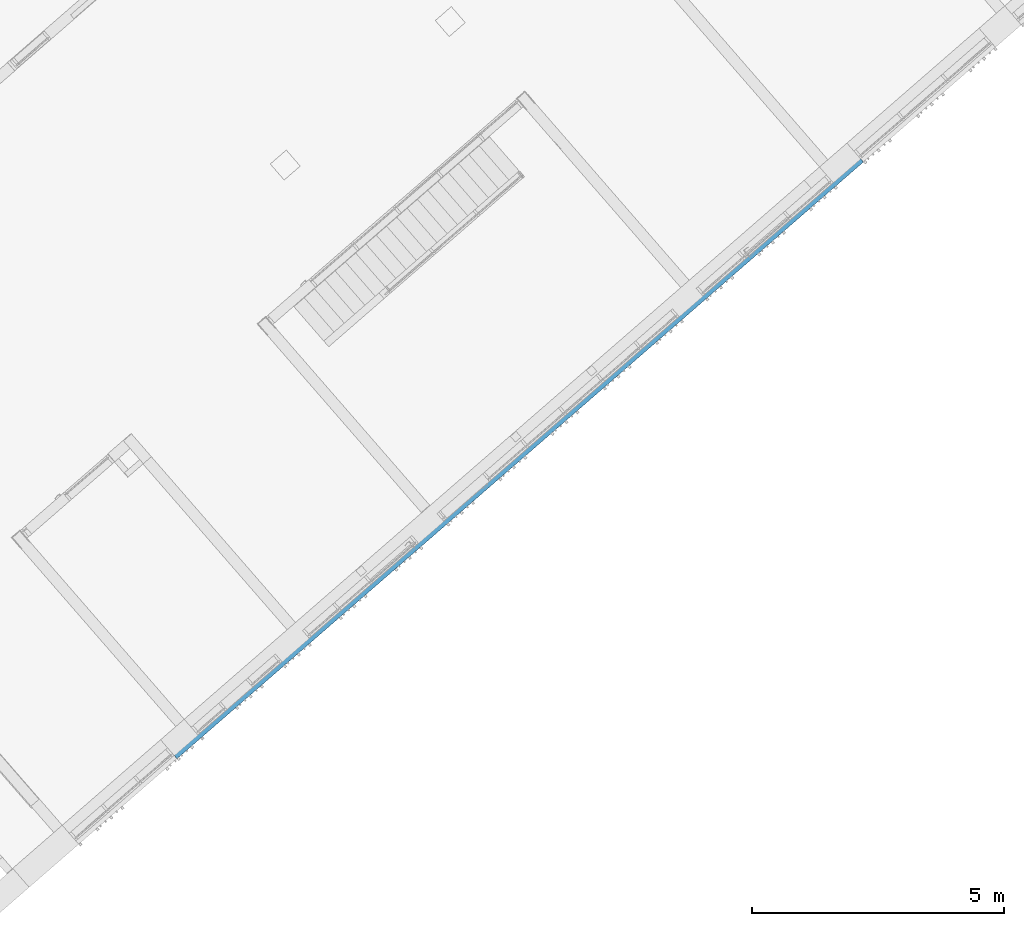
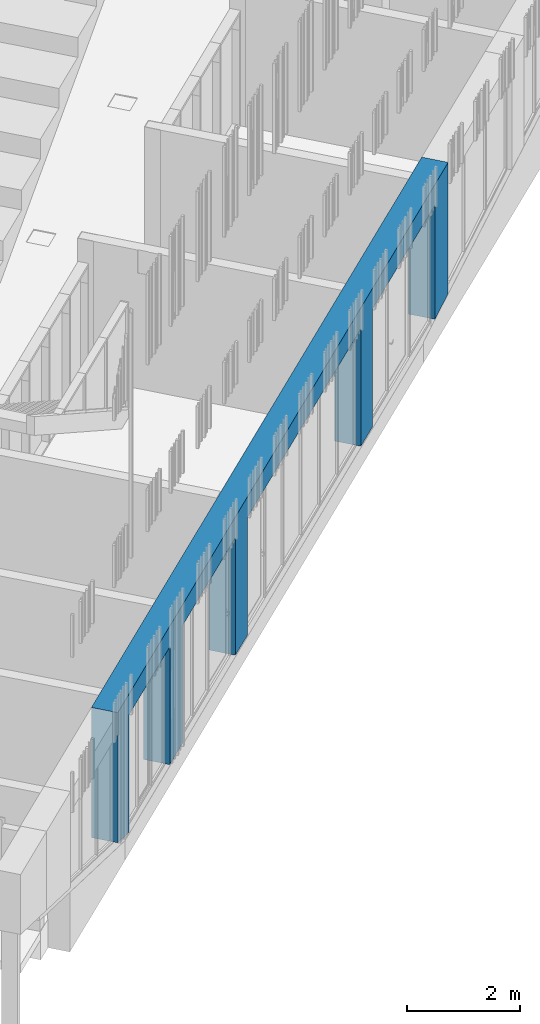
# One storey, part 67 of 124: 1 wall.
"""IFC2X3 building model written with IfcOpenShell, lengths in millimetres."""

import ifcopenshell
import ifcopenshell.guid

model = None  # the IFC model being written
_history = None  # IfcOwnerHistory: only IFC2X3 demands one
_inside = {}  # id of a spatial element -> (the spatial element, [elements in it])
_under = {}  # id of a project, library or spatial element -> (it, [spatial elements below it])
_declared = {}  # id of a project -> (the project, [libraries it declares])
_typed = {}  # id of a type object -> (the type object, [elements of that type])
_made_of = {}  # id of a material, layer set ... -> (it, [elements and type objects made of it])


def new_model(schema):
    """Start an empty IFC model of exactly this schema.

    Asked for "IFC4X3", IfcOpenShell would pick the latest addendum, in which some entities
    have other attributes; the version numbers below select the first issue.
    IFC2X3 requires an IfcOwnerHistory on every rooted entity: one is made here for all.
    """
    global model, _history
    if schema == "IFC4X3":
        model = ifcopenshell.file(schema_version=(4, 3, 0, 0))
    else:
        model = ifcopenshell.file(schema=schema)
    _inside.clear()
    _under.clear()
    _declared.clear()
    _typed.clear()
    _made_of.clear()
    _history = None
    if model.schema == "IFC2X3":
        org = make("IfcOrganization", Name="unknown")
        user = make(
            "IfcPersonAndOrganization",
            ThePerson=make("IfcPerson", FamilyName="unknown"),
            TheOrganization=org,
        )
        app = make(
            "IfcApplication",
            ApplicationDeveloper=org,
            Version="unknown",
            ApplicationFullName="unknown",
            ApplicationIdentifier="unknown",
        )
        _history = make(
            "IfcOwnerHistory",
            OwningUser=user,
            OwningApplication=app,
            ChangeAction="ADDED",
            CreationDate=0,
        )
    return model


def make(cls, **values):
    """One entity of the class cls with the attributes given. An attribute that is None is left unset."""
    return model.create_entity(
        cls, **{name: value for name, value in values.items() if value is not None}
    )


def entity(cls, *values):
    """Any entity or typed value of the class cls, its attributes in the order of the schema. None: left unset."""
    e = model.create_entity(cls)
    for i, value in enumerate(values):
        if value is not None:
            e[i] = value
    return e


def rooted(cls, **values):
    """An entity with a GlobalId (a new one), such as an element, a storey or a relation."""
    return make(cls, GlobalId=ifcopenshell.guid.new(), OwnerHistory=_history, **values)


def si_unit(unit_type, name, prefix=None):
    """IfcSIUnit, for example si_unit("LENGTHUNIT", "METRE", prefix="MILLI")."""
    return make("IfcSIUnit", UnitType=unit_type, Prefix=prefix, Name=name)


def converted_unit(unit_type, name, factor, base, dimensions=None, offset=None):
    """IfcConversionBasedUnit, such as the inch: factor (a typed value) times the base unit."""
    return make(
        "IfcConversionBasedUnit"
        if offset is None
        else "IfcConversionBasedUnitWithOffset",
        ConversionOffset=offset,
        Dimensions=None
        if dimensions is None
        else entity("IfcDimensionalExponents", *dimensions),
        UnitType=unit_type,
        Name=name,
        ConversionFactor=make(
            "IfcMeasureWithUnit", ValueComponent=factor, UnitComponent=base
        ),
    )


def derived_unit(unit_type, elements):
    """IfcDerivedUnit: a product of units, each with its exponent."""
    return make(
        "IfcDerivedUnit",
        Elements=[
            make("IfcDerivedUnitElement", Unit=unit, Exponent=power)
            for unit, power in elements
        ],
        UnitType=unit_type,
    )


def money_unit(currency):
    """IfcMonetaryUnit."""
    return make("IfcMonetaryUnit", Currency=currency)


def assignment(units):
    """IfcUnitAssignment: the units of a project."""
    return None if units is None else make("IfcUnitAssignment", Units=units)


def point(xyz):
    """IfcCartesianPoint."""
    return None if xyz is None else make("IfcCartesianPoint", Coordinates=xyz)


def direction(xyz):
    """IfcDirection."""
    return None if xyz is None else make("IfcDirection", DirectionRatios=xyz)


def frame(location, z_axis=None, x_axis=None):
    """IfcAxis2Placement3D, a coordinate frame: its origin and axes. An axis left out is left unset."""
    return make(
        "IfcAxis2Placement3D",
        Location=point(location),
        Axis=direction(z_axis),
        RefDirection=direction(x_axis),
    )


def origin_with_axes():
    """The frame at (0, 0, 0) with the z axis (0, 0, 1) and the x axis (1, 0, 0) written out."""
    return frame((0.0, 0.0, 0.0), z_axis=(0.0, 0.0, 1.0), x_axis=(1.0, 0.0, 0.0))


def place(relative_to, where):
    """IfcLocalPlacement: puts the frame where relative to a parent placement (None: the world)."""
    return make(
        "IfcLocalPlacement", PlacementRelTo=relative_to, RelativePlacement=where
    )


def context(
    kind, dimensions, precision=None, world=None, true_north=None, identifier=None
):
    """IfcGeometricRepresentationContext, for example the 3D "Model" context."""
    return make(
        "IfcGeometricRepresentationContext",
        ContextIdentifier=identifier,
        ContextType=kind,
        CoordinateSpaceDimension=dimensions,
        Precision=precision,
        WorldCoordinateSystem=world,
        TrueNorth=true_north,
    )


def subcontext(parent, identifier, kind, view, scale=None):
    """IfcGeometricRepresentationSubContext, for example "Body" below "Model"."""
    return make(
        "IfcGeometricRepresentationSubContext",
        ContextIdentifier=identifier,
        ContextType=kind,
        ParentContext=parent,
        TargetScale=scale,
        TargetView=view,
    )


def project(units=None, contexts=None):
    """IfcProject with its units and contexts."""
    return rooted(
        "IfcProject",
        Name="project",
        RepresentationContexts=contexts,
        UnitsInContext=assignment(units),
    )


def spatial(cls, under=None, at=None, **own):
    """A site, building, storey or space (cls), placed at a placement, below another one or the project."""
    s = rooted(cls, ObjectPlacement=at, **own)
    if under is not None:
        _under.setdefault(under.id(), (under, []))[1].append(s)
    return s


def faces_of(points, faces, orient=None, outer=None):
    """IfcFace entities. A face is a list of loops; a loop is a list of indices into points, from 0.

    orient and outer hold one flag for each loop. By default every Orientation is true, the
    first loop of a face is its IfcFaceOuterBound and the others are IfcFaceBound.
    """
    made = []
    for i, loops in enumerate(faces):
        bounds = []
        for j, loop in enumerate(loops):
            is_outer = j == 0 if outer is None else outer[i][j]
            bounds.append(
                make(
                    "IfcFaceOuterBound" if is_outer else "IfcFaceBound",
                    Bound=make("IfcPolyLoop", Polygon=[points[k] for k in loop]),
                    Orientation=True if orient is None else orient[i][j],
                )
            )
        made.append(make("IfcFace", Bounds=bounds))
    return made


def faceted_brep(points, faces, orient=None, outer=None, voids=None):
    """IfcFacetedBrep: a solid bounded by flat faces; with voids (closed shells), ...WithVoids."""
    shared = [point(p) for p in points]
    hull = make("IfcClosedShell", CfsFaces=faces_of(shared, faces, orient, outer))
    if voids is None:
        return make("IfcFacetedBrep", Outer=hull)
    return make(
        "IfcFacetedBrepWithVoids",
        Outer=hull,
        Voids=[
            make(cls, CfsFaces=faces_of(shared, fs, o, b)) for cls, fs, o, b in voids
        ],
    )


def shape(context_of_items, identifier, shape_type, items):
    """IfcShapeRepresentation: the items that make up one representation, for example the "Body"."""
    return make(
        "IfcShapeRepresentation",
        ContextOfItems=context_of_items,
        RepresentationIdentifier=identifier,
        RepresentationType=shape_type,
        Items=items,
    )


def material(Name=None, Category=None):
    """IfcMaterial."""
    return make("IfcMaterial", Name=Name, Category=Category)


def material_list(materials):
    """IfcMaterialList."""
    return make("IfcMaterialList", Materials=materials)


def made_of(thing, what):
    """Note that an element or type object is made of a material, layer set ...; save() writes the relation."""
    if what is not None:
        _made_of.setdefault(what.id(), (what, []))[1].append(thing)
    return thing


def type_object(cls, material=None, **own):
    """A type object (cls), such as IfcWallType, which elements share."""
    return made_of(rooted(cls, **own), material)


def element(
    cls,
    number,
    at=None,
    inside=None,
    cuts=None,
    type_object=None,
    material=None,
    context=None,
    identifier="Body",
    shape_type=None,
    held_by="IfcProductDefinitionShape",
    body=None,
    shapes=None,
    **own,
):
    """One element of the class cls, such as IfcWall. Its Tag is "e" and its number.

    at: its placement. inside: the storey or other place that contains it. cuts: it is an
    opening in that element (IfcRelVoidsElement). A single representation is given by context,
    identifier, shape_type and body (its items); several are given by shapes. held_by: the class
    of the entity that holds the representations. save() writes the other relations.
    """
    e = rooted(cls, Tag="e%d" % number, ObjectPlacement=at, **own)
    if body is not None:
        shapes = [shape(context, identifier, shape_type, body)]
    if shapes is not None:
        e.Representation = make(held_by, Representations=shapes)
    if inside is not None:
        _inside.setdefault(inside.id(), (inside, []))[1].append(e)
    if cuts is not None:
        rooted(
            "IfcRelVoidsElement", RelatingBuildingElement=cuts, RelatedOpeningElement=e
        )
    if type_object is not None:
        _typed.setdefault(type_object.id(), (type_object, []))[1].append(e)
    return made_of(e, material)


def aggregate(whole, parts):
    """IfcRelAggregates: a whole, such as a stair, and the parts it consists of."""
    return rooted("IfcRelAggregates", RelatingObject=whole, RelatedObjects=parts)


def save(model, path):
    """Write the relations noted so far, then the file.

    IfcRelAggregates (storeys below a building ...), IfcRelContainedInSpatialStructure (elements
    in a storey), IfcRelDefinesByType, IfcRelAssociatesMaterial and IfcRelDeclares: one each for
    every whole, place, type object, material and project.
    """
    for whole, parts in _under.values():
        aggregate(whole, parts)
    for where, things in _inside.values():
        rooted(
            "IfcRelContainedInSpatialStructure",
            RelatedElements=things,
            RelatingStructure=where,
        )
    for kind, things in _typed.values():
        rooted("IfcRelDefinesByType", RelatedObjects=things, RelatingType=kind)
    for what, things in _made_of.values():
        rooted("IfcRelAssociatesMaterial", RelatedObjects=things, RelatingMaterial=what)
    for by, libraries in _declared.values():
        rooted("IfcRelDeclares", RelatingContext=by, RelatedDefinitions=libraries)
    model.write(path)


model = new_model("IFC2X3")

# Units and contexts
model_context = context("Model", 3, precision=1e-05, world=origin_with_axes(), true_north=direction((0.0, 1.0)))
body_context = subcontext(model_context, "Body", "Model", "MODEL_VIEW")
ifc_project = project(units=[si_unit("LENGTHUNIT", "METRE", prefix="MILLI"), si_unit("AREAUNIT", "SQUARE_METRE"), si_unit("VOLUMEUNIT", "CUBIC_METRE"), converted_unit("PLANEANGLEUNIT", "DEGREE", entity("IfcPlaneAngleMeasure", 0.0174532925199), si_unit("PLANEANGLEUNIT", "RADIAN"), dimensions=[0, 0, 0, 0, 0, 0, 0]), si_unit("SOLIDANGLEUNIT", "STERADIAN"), money_unit("EUR"), converted_unit("TIMEUNIT", "Year", entity("IfcTimeMeasure", 31556926.0), si_unit("TIMEUNIT", "SECOND"), dimensions=[0, 0, 1, 0, 0, 0, 0]), si_unit("MASSUNIT", "GRAM", prefix="KILO"), si_unit("THERMODYNAMICTEMPERATUREUNIT", "DEGREE_CELSIUS"), si_unit("LUMINOUSINTENSITYUNIT", "LUMEN"), si_unit("ENERGYUNIT", "JOULE", prefix="MEGA"), derived_unit("THERMALCONDUCTANCEUNIT", [(si_unit("POWERUNIT", "WATT"), 1), (si_unit("LENGTHUNIT", "METRE"), -1), (si_unit("THERMODYNAMICTEMPERATUREUNIT", "KELVIN"), -1)]), derived_unit("SPECIFICHEATCAPACITYUNIT", [(si_unit("ENERGYUNIT", "JOULE"), 1), (si_unit("MASSUNIT", "GRAM", prefix="KILO"), -1), (si_unit("THERMODYNAMICTEMPERATUREUNIT", "KELVIN"), -1)]), derived_unit("MASSDENSITYUNIT", [(si_unit("MASSUNIT", "GRAM", prefix="KILO"), 1), (si_unit("VOLUMEUNIT", "CUBIC_METRE"), -1)])], contexts=[model_context])

# Site, building, storey
site_placement = place(None, origin_with_axes())
site = spatial("IfcSite", under=ifc_project, at=site_placement, Name="Site", CompositionType="ELEMENT")
building_placement = place(site_placement, origin_with_axes())
building = spatial("IfcBuilding", under=site, at=building_placement, Name="Building", CompositionType="ELEMENT")
storey_placement = place(building_placement, frame((0.0, 0.0, -1615.0), z_axis=(0.0, 0.0, 1.0), x_axis=(1.0, 0.0, 0.0)))
storey = spatial("IfcBuildingStorey", under=building, at=storey_placement, Name="0  korrus", CompositionType="ELEMENT", Elevation=-1615.0)

# Wall
ifc_material_1 = material(Name="Puit - Konstruktsioon")
ifc_material_2 = material(Name="Õhkvahe")
ifc_material_3 = material(Name="Soojustus - Plastik Kõva")
ifc_material_4 = material(Name="Raudbetoon - Toode")
ifc_material_5 = material(Name="Krohv - Lubjakivi")
ifc_material_list = material_list([ifc_material_1, ifc_material_1, ifc_material_2, ifc_material_3, ifc_material_3, ifc_material_4, ifc_material_5])
wall_type = type_object("IfcWallType", Name="VS-01", PredefinedType="NOTDEFINED")
wall_placement = place(storey_placement, frame((166076.147856, 89690.0662367, 0.0), z_axis=(0.0, 0.0, 1.0), x_axis=(-0.754709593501, -0.656059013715, 0.0)))
element("IfcWall", 1, at=wall_placement, inside=storey, type_object=wall_type, material=ifc_material_list, Name="VS-01", context=body_context, shape_type="Brep", body=[
    faceted_brep([(720.0, 497.0, 75.3675197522), (0.0, 497.0, 155.98290438), (0.0, 497.0, 3000.0), (18010.0009218, 497.0, 3000.0), (18010.0009218, 497.0, 179.612002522), (17390.0000011, 497.0, 0.0), (17390.0000011, 497.0, 2550.0), (15180.0000011, 497.0, 2550.0), (15180.0000011, 497.0, 0.0), (14469.9998322, 497.0, 0.0), (14469.9998322, 497.0, 2550.0), (11599.9998322, 497.0, 2550.0), (11599.9998322, 497.0, 0.0), (10940.0000231, 497.0, 0.0), (10940.0000231, 497.0, 2550.0), (4760.0000852, 497.0, 2550.0), (4760.0000852, 497.0, 0.0), (4139.99978588, 497.0, 0.0), (4139.99978588, 497.0, 2550.0), (720.0, 497.0, 2550.0), (0.0, 475.0, 155.982904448), (720.0, 475.0, 75.3675198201), (0.0, 475.0, 3000.0), (18010.0009218, 475.0, 3000.0), (18010.0009218, 475.0, 179.611991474), (17390.0000011, 475.0, 0.0), (17390.0000011, 475.0, 2550.0), (15180.0000011, 475.0, 2550.0), (15180.0000011, 475.0, 0.0), (14469.9998322, 475.0, 0.0), (14469.9998322, 475.0, 2550.0), (11599.9998322, 475.0, 2550.0), (11599.9998322, 475.0, 0.0), (10940.0000231, 475.0, 0.0), (10940.0000231, 475.0, 2550.0), (4760.0000852, 475.0, 2550.0), (4760.0000852, 475.0, 0.0), (4139.99978588, 475.0, 0.0), (4139.99978588, 475.0, 2550.0), (720.0, 475.0, 2550.0)], [[[0, 1, 2, 3, 4, 5, 6, 7, 8, 9, 10, 11, 12, 13, 14, 15, 16, 17, 18, 19]], [[20, 1, 0, 21]], [[1, 20, 22, 2]], [[22, 23, 3, 2]], [[24, 4, 3, 23]], [[25, 5, 4, 24]], [[6, 5, 25, 26]], [[7, 6, 26, 27]], [[8, 7, 27, 28]], [[8, 28, 29, 9]], [[29, 30, 10, 9]], [[30, 31, 11, 10]], [[31, 32, 12, 11]], [[13, 12, 32, 33]], [[13, 33, 34, 14]], [[14, 34, 35, 15]], [[15, 35, 36, 16]], [[36, 37, 17, 16]], [[38, 18, 17, 37]], [[39, 19, 18, 38]], [[21, 0, 19, 39]], [[20, 21, 39, 38, 37, 36, 35, 34, 33, 32, 31, 30, 29, 28, 27, 26, 25, 24, 23, 22]]]),
    faceted_brep([(720.0, 475.0, 75.3675198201), (0.0, 475.0, 155.982904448), (0.0, 475.0, 3000.0), (18010.0009218, 475.0, 3000.0), (18010.0009218, 475.0, 179.611991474), (17390.0000011, 475.0, 0.0), (17390.0000011, 475.0, 2550.0), (15180.0000011, 475.0, 2550.0), (15180.0000011, 475.0, 0.0), (14469.9998322, 475.0, 0.0), (14469.9998322, 475.0, 2550.0), (11599.9998322, 475.0, 2550.0), (11599.9998322, 475.0, 0.0), (10940.0000231, 475.0, 0.0), (10940.0000231, 475.0, 2550.0), (4760.0000852, 475.0, 2550.0), (4760.0000852, 475.0, 0.0), (4139.99978588, 475.0, 0.0), (4139.99978588, 475.0, 2550.0), (720.0, 475.0, 2550.0), (0.0, 455.0, 155.98290451), (720.0, 455.0, 75.3675198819), (0.0, 455.0, 3000.0), (18010.0009218, 455.0, 3000.0), (18010.0009218, 455.0, 179.61198143), (17390.0000011, 455.0, 0.0), (17390.0000011, 455.0, 2550.0), (15180.0000011, 455.0, 2550.0), (15180.0000011, 455.0, 0.0), (14469.9998322, 455.0, 0.0), (14469.9998322, 455.0, 2550.0), (11599.9998322, 455.0, 2550.0), (11599.9998322, 455.0, 0.0), (10940.0000231, 455.0, 0.0), (10940.0000231, 455.0, 2550.0), (4760.0000852, 455.0, 2550.0), (4760.0000852, 455.0, 0.0), (4139.99978588, 455.0, 0.0), (4139.99978588, 455.0, 2550.0), (720.0, 455.0, 2550.0)], [[[0, 1, 2, 3, 4, 5, 6, 7, 8, 9, 10, 11, 12, 13, 14, 15, 16, 17, 18, 19]], [[20, 1, 0, 21]], [[1, 20, 22, 2]], [[22, 23, 3, 2]], [[24, 4, 3, 23]], [[25, 5, 4, 24]], [[6, 5, 25, 26]], [[7, 6, 26, 27]], [[8, 7, 27, 28]], [[8, 28, 29, 9]], [[29, 30, 10, 9]], [[30, 31, 11, 10]], [[31, 32, 12, 11]], [[13, 12, 32, 33]], [[13, 33, 34, 14]], [[14, 34, 35, 15]], [[15, 35, 36, 16]], [[36, 37, 17, 16]], [[38, 18, 17, 37]], [[39, 19, 18, 38]], [[21, 0, 19, 39]], [[20, 21, 39, 38, 37, 36, 35, 34, 33, 32, 31, 30, 29, 28, 27, 26, 25, 24, 23, 22]]]),
    faceted_brep([(720.0, 455.0, 75.3675198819), (0.0, 455.0, 155.98290451), (0.0, 455.0, 3000.0), (18010.0009218, 455.0, 3000.0), (18010.0009218, 455.0, 179.61198143), (17390.0000011, 455.0, 0.0), (17390.0000011, 455.0, 2550.0), (15180.0000011, 455.0, 2550.0), (15180.0000011, 455.0, 0.0), (14469.9998322, 455.0, 0.0), (14469.9998322, 455.0, 2550.0), (11599.9998322, 455.0, 2550.0), (11599.9998322, 455.0, 0.0), (10940.0000231, 455.0, 0.0), (10940.0000231, 455.0, 2550.0), (4760.0000852, 455.0, 2550.0), (4760.0000852, 455.0, 0.0), (4139.99978588, 455.0, 0.0), (4139.99978588, 455.0, 2550.0), (720.0, 455.0, 2550.0), (0.0, 410.0, 155.982904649), (720.0, 410.0, 75.3675200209), (0.0, 410.0, 3000.0), (18010.0009218, 410.0, 3000.0), (18010.0009218, 410.0, 179.611958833), (17390.0000011, 410.0, 0.0), (17390.0000011, 410.0, 2550.0), (15180.0000011, 410.0, 2550.0), (15180.0000011, 410.0, 0.0), (14469.9998322, 410.0, 0.0), (14469.9998322, 410.0, 2550.0), (11599.9998322, 410.0, 2550.0), (11599.9998322, 410.0, 0.0), (10940.0000231, 410.0, 0.0), (10940.0000231, 410.0, 2550.0), (4760.0000852, 410.0, 2550.0), (4760.0000852, 410.0, 0.0), (4139.99978588, 410.0, 0.0), (4139.99978588, 410.0, 2550.0), (720.0, 410.0, 2550.0)], [[[0, 1, 2, 3, 4, 5, 6, 7, 8, 9, 10, 11, 12, 13, 14, 15, 16, 17, 18, 19]], [[20, 1, 0, 21]], [[1, 20, 22, 2]], [[22, 23, 3, 2]], [[24, 4, 3, 23]], [[25, 5, 4, 24]], [[6, 5, 25, 26]], [[7, 6, 26, 27]], [[8, 7, 27, 28]], [[8, 28, 29, 9]], [[29, 30, 10, 9]], [[30, 31, 11, 10]], [[31, 32, 12, 11]], [[13, 12, 32, 33]], [[13, 33, 34, 14]], [[14, 34, 35, 15]], [[15, 35, 36, 16]], [[36, 37, 17, 16]], [[38, 18, 17, 37]], [[39, 19, 18, 38]], [[21, 0, 19, 39]], [[20, 21, 39, 38, 37, 36, 35, 34, 33, 32, 31, 30, 29, 28, 27, 26, 25, 24, 23, 22]]]),
    faceted_brep([(720.0, 410.0, 75.3675200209), (0.0, 410.0, 155.982904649), (0.0, 410.0, 3000.0), (18010.0009218, 410.0, 3000.0), (18010.0009218, 410.0, 179.611958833), (17390.0000011, 410.0, 0.0), (17390.0000011, 410.0, 2550.0), (15180.0000011, 410.0, 2550.0), (15180.0000011, 410.0, 0.0), (14469.9998322, 410.0, 0.0), (14469.9998322, 410.0, 2550.0), (11599.9998322, 410.0, 2550.0), (11599.9998322, 410.0, 0.0), (10940.0000231, 410.0, 0.0), (10940.0000231, 410.0, 2550.0), (4760.0000852, 410.0, 2550.0), (4760.0000852, 410.0, 0.0), (4139.99978588, 410.0, 0.0), (4139.99978588, 410.0, 2550.0), (720.0, 410.0, 2550.0), (0.0, 360.0, 155.982904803), (720.0, 360.0, 75.3675201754), (0.0, 360.0, 3000.0), (18010.0009218, 360.0, 3000.0), (18010.0009218, 360.0, 179.611933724), (17390.0000011, 360.0, 0.0), (17390.0000011, 360.0, 2550.0), (15180.0000011, 360.0, 2550.0), (15180.0000011, 360.0, 0.0), (14469.9998322, 360.0, 0.0), (14469.9998322, 360.0, 2550.0), (11599.9998322, 360.0, 2550.0), (11599.9998322, 360.0, 0.0), (10940.0000231, 360.0, 0.0), (10940.0000231, 360.0, 2550.0), (4760.0000852, 360.0, 2550.0), (4760.0000852, 360.0, 0.0), (4139.99978588, 360.0, 0.0), (4139.99978588, 360.0, 2550.0), (720.0, 360.0, 2550.0)], [[[0, 1, 2, 3, 4, 5, 6, 7, 8, 9, 10, 11, 12, 13, 14, 15, 16, 17, 18, 19]], [[20, 1, 0, 21]], [[1, 20, 22, 2]], [[22, 23, 3, 2]], [[24, 4, 3, 23]], [[25, 5, 4, 24]], [[6, 5, 25, 26]], [[7, 6, 26, 27]], [[8, 7, 27, 28]], [[8, 28, 29, 9]], [[29, 30, 10, 9]], [[30, 31, 11, 10]], [[31, 32, 12, 11]], [[13, 12, 32, 33]], [[13, 33, 34, 14]], [[14, 34, 35, 15]], [[15, 35, 36, 16]], [[36, 37, 17, 16]], [[38, 18, 17, 37]], [[39, 19, 18, 38]], [[21, 0, 19, 39]], [[20, 21, 39, 38, 37, 36, 35, 34, 33, 32, 31, 30, 29, 28, 27, 26, 25, 24, 23, 22]]]),
    faceted_brep([(720.0, 360.0, 75.3675201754), (0.0, 360.0, 155.982904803), (0.0, 360.0, 3000.0), (18010.0009218, 360.0, 3000.0), (18010.0009218, 360.0, 179.611933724), (17390.0000011, 360.0, 0.0), (17390.0000011, 360.0, 2550.0), (15180.0000011, 360.0, 2550.0), (15180.0000011, 360.0, 0.0), (14469.9998322, 360.0, 0.0), (14469.9998322, 360.0, 2550.0), (11599.9998322, 360.0, 2550.0), (11599.9998322, 360.0, 0.0), (10940.0000231, 360.0, 0.0), (10940.0000231, 360.0, 2550.0), (4760.0000852, 360.0, 2550.0), (4760.0000852, 360.0, 0.0), (4139.99978588, 360.0, 0.0), (4139.99978588, 360.0, 2550.0), (720.0, 360.0, 2550.0), (0.0, 210.0, 155.982905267), (720.0, 210.0, 75.3675206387), (0.0, 210.0, 3000.0), (18010.0009218, 210.0, 3000.0), (18010.0009218, 210.0, 179.611858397), (17390.0000011, 210.0, 0.0), (17390.0000011, 210.0, 2550.0), (15180.0000011, 210.0, 2550.0), (15180.0000011, 210.0, 0.0), (14469.9998322, 210.0, 0.0), (14469.9998322, 210.0, 2550.0), (11599.9998322, 210.0, 2550.0), (11599.9998322, 210.0, 0.0), (10940.0000231, 210.0, 0.0), (10940.0000231, 210.0, 2550.0), (4760.0000852, 210.0, 2550.0), (4760.0000852, 210.0, 0.0), (4139.99978588, 210.0, 0.0), (4139.99978588, 210.0, 2550.0), (720.0, 210.0, 2550.0)], [[[0, 1, 2, 3, 4, 5, 6, 7, 8, 9, 10, 11, 12, 13, 14, 15, 16, 17, 18, 19]], [[20, 1, 0, 21]], [[1, 20, 22, 2]], [[22, 23, 3, 2]], [[24, 4, 3, 23]], [[25, 5, 4, 24]], [[6, 5, 25, 26]], [[7, 6, 26, 27]], [[8, 7, 27, 28]], [[8, 28, 29, 9]], [[29, 30, 10, 9]], [[30, 31, 11, 10]], [[31, 32, 12, 11]], [[13, 12, 32, 33]], [[13, 33, 34, 14]], [[14, 34, 35, 15]], [[15, 35, 36, 16]], [[36, 37, 17, 16]], [[38, 18, 17, 37]], [[39, 19, 18, 38]], [[21, 0, 19, 39]], [[20, 21, 39, 38, 37, 36, 35, 34, 33, 32, 31, 30, 29, 28, 27, 26, 25, 24, 23, 22]]]),
    faceted_brep([(720.0, 210.0, 75.3675206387), (0.0, 210.0, 155.982905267), (0.0, 210.0, 3000.0), (18010.0009218, 210.0, 3000.0), (18010.0009218, 210.0, 179.611858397), (17390.0000011, 210.0, 0.0), (17390.0000011, 210.0, 2550.0), (15180.0000011, 210.0, 2550.0), (15180.0000011, 210.0, 0.0), (14469.9998322, 210.0, 0.0), (14469.9998322, 210.0, 2550.0), (11599.9998322, 210.0, 2550.0), (11599.9998322, 210.0, 0.0), (10940.0000231, 210.0, 0.0), (10940.0000231, 210.0, 2550.0), (4760.0000852, 210.0, 2550.0), (4760.0000852, 210.0, 0.0), (4139.99978588, 210.0, 0.0), (4139.99978588, 210.0, 2550.0), (720.0, 210.0, 2550.0), (0.0, 10.0, 155.982905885), (720.0, 10.0, 75.3675212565), (0.0, 10.0, 3000.0), (18010.0009218, 10.0, 3000.0), (18010.0009218, 10.0, 179.611757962), (17390.0000011, 9.99999999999, 0.0), (17390.0000011, 9.99999999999, 2550.0), (15180.0000011, 9.99999999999, 2550.0), (15180.0000011, 10.0, 0.0), (14469.9998322, 10.0, 0.0), (14469.9998322, 10.0, 2550.0), (11599.9998322, 10.0, 2550.0), (11599.9998322, 10.0, 0.0), (10940.0000231, 10.0, 0.0), (10940.0000231, 10.0, 2550.0), (4760.0000852, 10.0, 2550.0), (4760.0000852, 10.0, 0.0), (4139.99978588, 10.0, 0.0), (4139.99978588, 10.0, 2550.0), (720.0, 10.0, 2550.0)], [[[0, 1, 2, 3, 4, 5, 6, 7, 8, 9, 10, 11, 12, 13, 14, 15, 16, 17, 18, 19]], [[20, 1, 0, 21]], [[1, 20, 22, 2]], [[22, 23, 3, 2]], [[24, 4, 3, 23]], [[25, 5, 4, 24]], [[6, 5, 25, 26]], [[7, 6, 26, 27]], [[8, 7, 27, 28]], [[8, 28, 29, 9]], [[29, 30, 10, 9]], [[30, 31, 11, 10]], [[31, 32, 12, 11]], [[13, 12, 32, 33]], [[13, 33, 34, 14]], [[14, 34, 35, 15]], [[15, 35, 36, 16]], [[36, 37, 17, 16]], [[38, 18, 17, 37]], [[39, 19, 18, 38]], [[21, 0, 19, 39]], [[20, 21, 39, 38, 37, 36, 35, 34, 33, 32, 31, 30, 29, 28, 27, 26, 25, 24, 23, 22]]]),
    faceted_brep([(720.0, 10.0, 75.3675212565), (0.0, 10.0, 155.982905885), (0.0, 10.0, 3000.0), (18010.0009218, 10.0, 3000.0), (18010.0009218, 10.0, 179.611757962), (17390.0000011, 10.0, 0.0), (17390.0000011, 10.0, 2550.0), (15180.0000011, 10.0, 2550.0), (15180.0000011, 10.0, 0.0), (14469.9998322, 10.0, 0.0), (14469.9998322, 10.0, 2550.0), (11599.9998322, 10.0, 2550.0), (11599.9998322, 10.0, 0.0), (10940.0000231, 10.0, 0.0), (10940.0000231, 10.0, 2550.0), (4760.0000852, 10.0, 2550.0), (4760.0000852, 10.0, 0.0), (4139.99978588, 10.0, 0.0), (4139.99978588, 10.0, 2550.0), (720.0, 10.0, 2550.0), (0.0, 0.0, 155.982905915), (720.0, 0.0, 75.3675212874), (0.0, 0.0, 3000.0), (18010.0009218, 0.0, 3000.0), (18010.0009218, 0.0, 179.61175294), (17390.0000011, 0.0, 0.0), (17390.0000011, 0.0, 2550.0), (15180.0000011, 0.0, 2550.0), (15180.0000011, 0.0, 0.0), (14469.9998322, 0.0, 0.0), (14469.9998322, 0.0, 2550.0), (11599.9998322, 0.0, 2550.0), (11599.9998322, 0.0, 0.0), (10940.0000231, 0.0, 0.0), (10940.0000231, 0.0, 2550.0), (4760.0000852, 0.0, 2550.0), (4760.0000852, 0.0, 0.0), (4139.99978588, 0.0, 0.0), (4139.99978588, 0.0, 2550.0), (720.0, 0.0, 2550.0)], [[[0, 1, 2, 3, 4, 5, 6, 7, 8, 9, 10, 11, 12, 13, 14, 15, 16, 17, 18, 19]], [[20, 1, 0, 21]], [[1, 20, 22, 2]], [[22, 23, 3, 2]], [[24, 4, 3, 23]], [[25, 5, 4, 24]], [[6, 5, 25, 26]], [[7, 6, 26, 27]], [[8, 7, 27, 28]], [[8, 28, 29, 9]], [[29, 30, 10, 9]], [[30, 31, 11, 10]], [[31, 32, 12, 11]], [[13, 12, 32, 33]], [[13, 33, 34, 14]], [[14, 34, 35, 15]], [[15, 35, 36, 16]], [[36, 37, 17, 16]], [[38, 18, 17, 37]], [[39, 19, 18, 38]], [[21, 0, 19, 39]], [[20, 21, 39, 38, 37, 36, 35, 34, 33, 32, 31, 30, 29, 28, 27, 26, 25, 24, 23, 22]]]),
])

save(model, "model.ifc")
